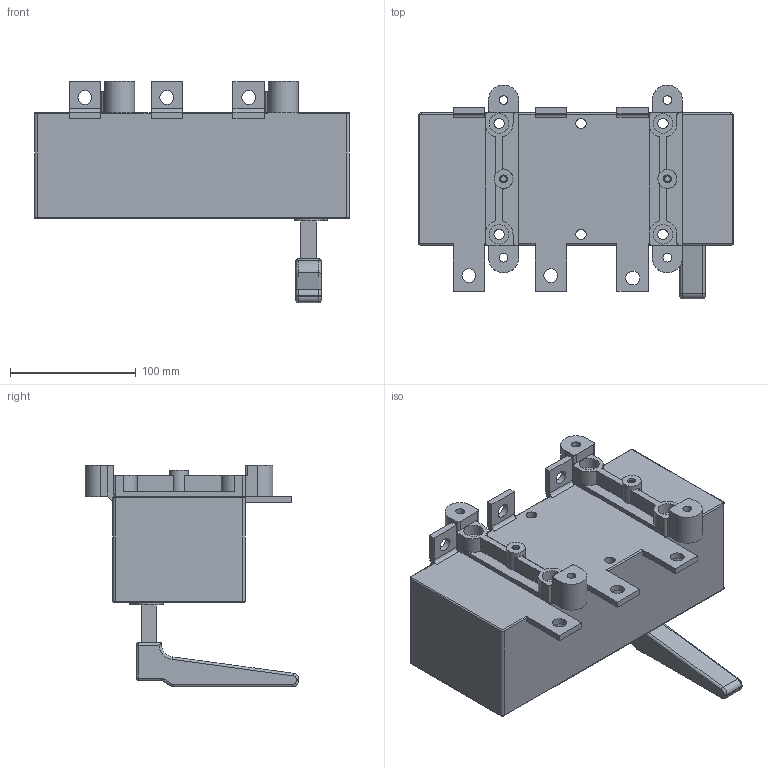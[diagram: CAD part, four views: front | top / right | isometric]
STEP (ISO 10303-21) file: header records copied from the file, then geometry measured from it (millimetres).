
FILE_DESCRIPTION(/* description */ (''),/* implementation_level */ '2;1');
FILE_NAME(/* name */ 'RA630 P3 B-R.stp',/* time_stamp */ '2021-08-19T08:32:51+02:00',/* author */ (''),/* organization */ (''),/* preprocessor_version */ 'ST-DEVELOPER v18.1',/* originating_system */ 'SIEMENS PLM Software NX 1965',/* authorisation */ '');
FILE_SCHEMA (('AUTOMOTIVE_DESIGN { 1 0 10303 214 3 1 1 1 }'));
Length unit declared in the file: millimetre
Products named in the file (1): RA630 P3 B-R_stp
Bounding box: 250 x 169.5 x 176 mm (x, y, z)
Volume: 2333832.8 mm3; surface area: 172215.4 mm2
Topology: 1 solids, 1 shells, 245 faces, 636 edges, 402 vertices
Faces by surface type: cylinder 115, plane 108, torus 13, sphere 6, bspline 3
Full cylindrical faces by diameter (mm): 4.8 x2, 6.2 x2, 7 x4, 8.2 x6, 11 x6, 14 x4, 15 x2, 15.5 x4
Entity records: 7421 total; most frequent: DIRECTION 1328, CARTESIAN_POINT 1317, ORIENTED_EDGE 1192, EDGE_CURVE 596, AXIS2_PLACEMENT_3D 493, VERTEX_POINT 398, LINE 342, VECTOR 342
